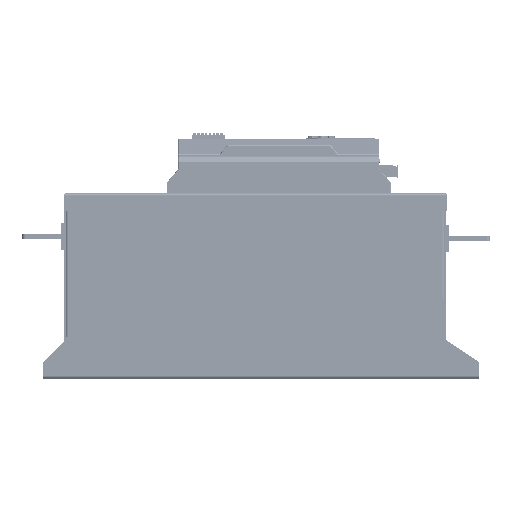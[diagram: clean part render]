
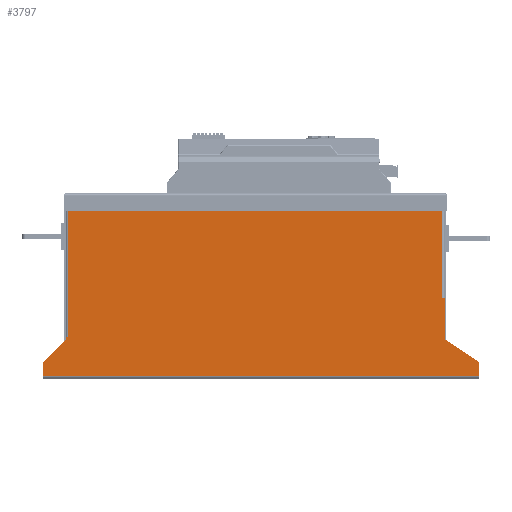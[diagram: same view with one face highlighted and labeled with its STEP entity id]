
A CAD part, left-side view. The second image highlights one B-rep face of the part: STEP entity #3797.
In plain terms, the highlighted planar face has unit normal (-1, 0, 0).
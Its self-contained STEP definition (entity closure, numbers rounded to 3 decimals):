
#880=DIRECTION('',(0.,-1.,0.));
#881=VECTOR('',#880,390.);
#882=CARTESIAN_POINT('',(0.,0.,2.4));
#883=LINE('',#882,#881);
#910=DIRECTION('',(0.,1.,0.));
#911=VECTOR('',#910,12.);
#912=CARTESIAN_POINT('',(0.,-357.6,150.));
#913=LINE('',#912,#911);
#917=DIRECTION('',(0.,0.,-1.));
#918=VECTOR('',#917,37.5);
#919=CARTESIAN_POINT('',(0.,-360.,72.5));
#920=LINE('',#919,#918);
#924=DIRECTION('',(0.,0.832,0.555));
#925=VECTOR('',#924,36.056);
#926=CARTESIAN_POINT('',(0.,-390.,15.));
#927=LINE('',#926,#925);
#931=DIRECTION('',(0.,0.,1.));
#932=VECTOR('',#931,12.6);
#933=CARTESIAN_POINT('',(0.,-390.,2.4));
#934=LINE('',#933,#932);
#938=DIRECTION('',(0.,0.,-1.));
#939=VECTOR('',#938,12.6);
#940=CARTESIAN_POINT('',(0.,0.,15.));
#941=LINE('',#940,#939);
#945=DIRECTION('',(0.,0.707,-0.707));
#946=VECTOR('',#945,28.284);
#947=CARTESIAN_POINT('',(0.,-20.,35.));
#948=LINE('',#947,#946);
#952=DIRECTION('',(0.,0.,-1.));
#953=VECTOR('',#952,2.);
#954=CARTESIAN_POINT('',(0.,-20.,37.));
#955=LINE('',#954,#953);
#959=DIRECTION('',(0.,1.,0.));
#960=VECTOR('',#959,12.);
#961=CARTESIAN_POINT('',(0.,-34.4,150.));
#962=LINE('',#961,#960);
#1033=DIRECTION('',(0.,1.,0.));
#1034=VECTOR('',#1033,311.2);
#1035=CARTESIAN_POINT('',(0.,-345.6,150.));
#1036=LINE('',#1035,#1034);
#1279=DIRECTION('',(0.,-1.,0.));
#1280=VECTOR('',#1279,2.4);
#1281=CARTESIAN_POINT('',(0.,-20.,37.));
#1282=LINE('',#1281,#1280);
#1703=DIRECTION('',(0.,0.,1.));
#1704=VECTOR('',#1703,113.);
#1705=CARTESIAN_POINT('',(0.,-22.4,37.));
#1706=LINE('',#1705,#1704);
#1977=DIRECTION('',(0.,-1.,0.));
#1978=VECTOR('',#1977,2.4);
#1979=CARTESIAN_POINT('',(0.,-357.6,72.5));
#1980=LINE('',#1979,#1978);
#2020=DIRECTION('',(0.,0.,-1.));
#2021=VECTOR('',#2020,77.5);
#2022=CARTESIAN_POINT('',(0.,-357.6,150.));
#2023=LINE('',#2022,#2021);
#2646=CARTESIAN_POINT('',(0.,0.,2.4));
#2647=CARTESIAN_POINT('',(0.,-390.,2.4));
#2648=VERTEX_POINT('',#2646);
#2649=VERTEX_POINT('',#2647);
#2678=CARTESIAN_POINT('',(0.,-20.,35.));
#2679=CARTESIAN_POINT('',(0.,0.,15.));
#2680=VERTEX_POINT('',#2678);
#2681=VERTEX_POINT('',#2679);
#2682=CARTESIAN_POINT('',(0.,-390.,15.));
#2683=CARTESIAN_POINT('',(0.,-360.,35.));
#2684=VERTEX_POINT('',#2682);
#2685=VERTEX_POINT('',#2683);
#2790=CARTESIAN_POINT('',(0.,-357.6,72.5));
#2791=CARTESIAN_POINT('',(0.,-360.,72.5));
#2792=VERTEX_POINT('',#2790);
#2793=VERTEX_POINT('',#2791);
#2802=CARTESIAN_POINT('',(0.,-357.6,150.));
#2803=VERTEX_POINT('',#2802);
#2830=CARTESIAN_POINT('',(0.,-20.,37.));
#2831=CARTESIAN_POINT('',(0.,-22.4,37.));
#2832=VERTEX_POINT('',#2830);
#2833=VERTEX_POINT('',#2831);
#2842=CARTESIAN_POINT('',(0.,-22.4,150.));
#2843=VERTEX_POINT('',#2842);
#2906=CARTESIAN_POINT('',(0.,-345.6,150.));
#2907=VERTEX_POINT('',#2906);
#2908=CARTESIAN_POINT('',(0.,-34.4,150.));
#2909=VERTEX_POINT('',#2908);
#3763=CARTESIAN_POINT('',(0.,-390.,0.));
#3764=DIRECTION('',(-1.,0.,0.));
#3765=DIRECTION('',(0.,-1.,0.));
#3766=AXIS2_PLACEMENT_3D('',#3763,#3764,#3765);
#3767=PLANE('',#3766);
#3769=ORIENTED_EDGE('',*,*,#3768,.F.);
#3771=ORIENTED_EDGE('',*,*,#3770,.T.);
#3773=ORIENTED_EDGE('',*,*,#3772,.T.);
#3775=ORIENTED_EDGE('',*,*,#3774,.T.);
#3777=ORIENTED_EDGE('',*,*,#3776,.F.);
#3779=ORIENTED_EDGE('',*,*,#3778,.F.);
#3780=ORIENTED_EDGE('',*,*,#3754,.F.);
#3782=ORIENTED_EDGE('',*,*,#3781,.F.);
#3784=ORIENTED_EDGE('',*,*,#3783,.F.);
#3786=ORIENTED_EDGE('',*,*,#3785,.F.);
#3788=ORIENTED_EDGE('',*,*,#3787,.T.);
#3790=ORIENTED_EDGE('',*,*,#3789,.T.);
#3792=ORIENTED_EDGE('',*,*,#3791,.F.);
#3794=ORIENTED_EDGE('',*,*,#3793,.F.);
#3795=EDGE_LOOP('',(#3769,#3771,#3773,#3775,#3777,#3779,#3780,#3782,#3784,#3786,
#3788,#3790,#3792,#3794));
#3796=FACE_OUTER_BOUND('',#3795,.F.);
#3754=EDGE_CURVE('',#2648,#2649,#883,.T.);
#3768=EDGE_CURVE('',#2803,#2907,#913,.T.);
#3770=EDGE_CURVE('',#2803,#2792,#2023,.T.);
#3772=EDGE_CURVE('',#2792,#2793,#1980,.T.);
#3774=EDGE_CURVE('',#2793,#2685,#920,.T.);
#3776=EDGE_CURVE('',#2684,#2685,#927,.T.);
#3778=EDGE_CURVE('',#2649,#2684,#934,.T.);
#3781=EDGE_CURVE('',#2681,#2648,#941,.T.);
#3783=EDGE_CURVE('',#2680,#2681,#948,.T.);
#3785=EDGE_CURVE('',#2832,#2680,#955,.T.);
#3787=EDGE_CURVE('',#2832,#2833,#1282,.T.);
#3789=EDGE_CURVE('',#2833,#2843,#1706,.T.);
#3791=EDGE_CURVE('',#2909,#2843,#962,.T.);
#3793=EDGE_CURVE('',#2907,#2909,#1036,.T.);
#3797=ADVANCED_FACE('',(#3796),#3767,.T.);
